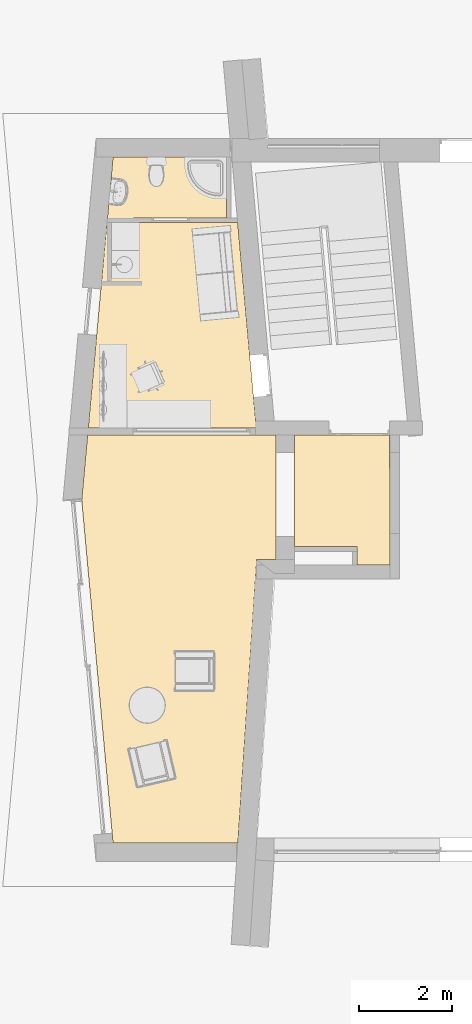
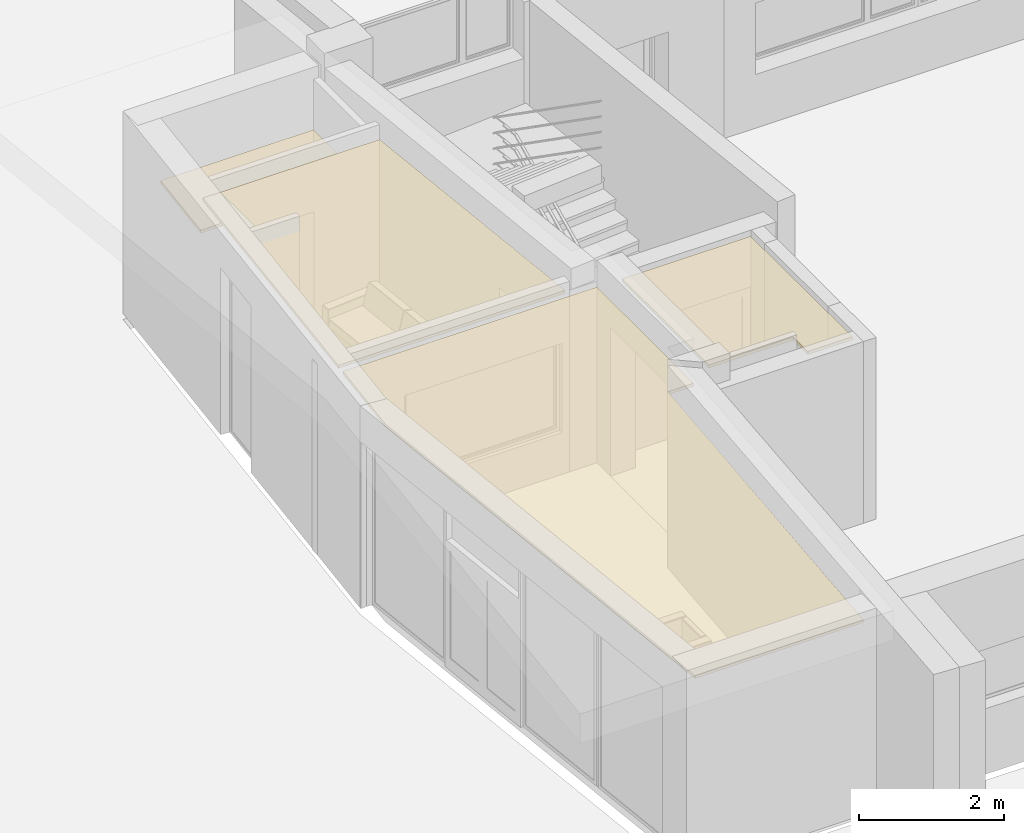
# One storey, part 29 of 36: 4 coverings.
"""IFC2X3 building model written with IfcOpenShell, lengths in millimetres."""

from ifc_helpers import new_model, entity, si_unit, converted_unit, money_unit, direction, frame, origin_with_axes, place, context, subcontext, project, spatial, faceted_brep, material, type_object, element, save


model = new_model("IFC2X3")

# Units and contexts
model_context = context("Model", 3, precision=1e-05, world=origin_with_axes(), true_north=direction((0.0, 1.0)))
body_context = subcontext(model_context, "Body", "Model", "MODEL_VIEW")
ifc_project = project(units=[si_unit("LENGTHUNIT", "METRE", prefix="MILLI"), si_unit("AREAUNIT", "SQUARE_METRE"), si_unit("VOLUMEUNIT", "CUBIC_METRE"), converted_unit("PLANEANGLEUNIT", "DEGREE", entity("IfcPlaneAngleMeasure", 0.0174532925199), si_unit("PLANEANGLEUNIT", "RADIAN"), dimensions=[0, 0, 0, 0, 0, 0, 0]), si_unit("SOLIDANGLEUNIT", "STERADIAN"), money_unit("USD"), converted_unit("TIMEUNIT", "Year", entity("IfcTimeMeasure", 31556926.0), si_unit("TIMEUNIT", "SECOND"), dimensions=[0, 0, 0, 0, 0, 0, 0]), si_unit("MASSUNIT", "GRAM"), si_unit("THERMODYNAMICTEMPERATUREUNIT", "DEGREE_CELSIUS"), si_unit("LUMINOUSINTENSITYUNIT", "LUMEN")], contexts=[model_context])

# Site, building, storey
site_placement = place(None, origin_with_axes())
site = spatial("IfcSite", under=ifc_project, at=site_placement, Name="Site", CompositionType="ELEMENT")
building_placement = place(site_placement, origin_with_axes())
building = spatial("IfcBuilding", under=site, at=building_placement, Name="Building", CompositionType="ELEMENT")
storey_placement = place(building_placement, frame((0.0, 0.0, -3400.0), z_axis=(0.0, 0.0, 1.0), x_axis=(1.0, 0.0, 0.0)))
storey = spatial("IfcBuildingStorey", under=building, at=storey_placement, Name="1KORRUS", CompositionType="ELEMENT", Elevation=-3400.0)

# Coverings
ifc_material_1 = material(Name="Alumiiniumprofiil")
covering_type_1 = type_object("IfcCoveringType", Name="Alumiiniumprofiil 50", PredefinedType="NOTDEFINED")
covering_1_placement = place(storey_placement, frame((-54855.1823813, -6337.6041088, 2350.0), z_axis=(0.0, 0.0, 1.0), x_axis=(1.0, 0.0, 0.0)))
element("IfcCovering", 1, at=covering_1_placement, inside=storey, type_object=covering_type_1, material=ifc_material_1, Name="RL2", ObjectType="alumiiniumprofiil", PredefinedType="CEILING", context=body_context, shape_type="Brep", body=[
    faceted_brep([(0.0, 0.0, -50.0), (0.0, 1300.0, -50.0), (0.0, 1300.0, 0.0), (0.0, 0.0, 0.0), (-2546.93, -13.0, -50.0), (-2427.36, 1298.0, -50.0), (-2427.36, 1298.0, 0.0), (-2546.93, -13.0, 0.0)], [[[0, 1, 2, 3]], [[0, 4, 5, 1]], [[1, 5, 6, 2]], [[3, 2, 6, 7]], [[4, 0, 3, 7]], [[5, 4, 7, 6]]]),
])
ifc_material_2 = material(Name="Betoon")
covering_type_2 = type_object("IfcCoveringType", Name="Betoon 50", PredefinedType="NOTDEFINED")
covering_2_placement = place(storey_placement, frame((-53392.226831, -13387.3375674, 2950.0), z_axis=(0.0, 0.0, 1.0), x_axis=(1.0, 0.0, 0.0)))
element("IfcCovering", 2, at=covering_2_placement, inside=storey, type_object=covering_type_2, material=ifc_material_2, Name="RL1", ObjectType="kipsplaat", PredefinedType="CEILING", context=body_context, shape_type="Brep", body=[
    faceted_brep([(0.0, 0.0, -50.0), (1338.82, 0.0, -50.0), (1338.82, 0.0, 0.0), (0.0, 0.0, 0.0), (0.0, 2389.685, -50.0), (2039.686, 2389.685, -50.0), (2050.497, -400.0, -50.0), (1338.82, -400.0, -50.0), (1338.82, -400.0, 0.0), (2050.497, -400.0, 0.0), (2039.686, 2389.685, 0.0), (0.0, 2389.685, 0.0)], [[[0, 1, 2, 3]], [[0, 4, 5, 6, 7, 1]], [[1, 7, 8, 2]], [[3, 2, 8, 9, 10, 11]], [[4, 0, 3, 11]], [[5, 4, 11, 10]], [[6, 5, 10, 9]], [[7, 6, 9, 8]]]),
])
covering_3_placement = place(storey_placement, frame((-57813.5558408, -10847.6526712, 2950.0), z_axis=(0.0, 0.0, 1.0), x_axis=(1.0, 0.0, 0.0)))
element("IfcCovering", 3, at=covering_3_placement, inside=storey, type_object=covering_type_2, material=ifc_material_2, Name="RL1", ObjectType="kipsplaat", PredefinedType="CEILING", context=body_context, shape_type="Brep", body=[
    faceted_brep([(0.0, 0.0, -50.0), (3604.147, 0.0, -50.0), (3604.147, 0.0, 0.0), (0.0, 0.0, 0.0), (398.444, 4410.049, -50.0), (3202.914, 4410.049, -50.0), (3202.914, 4410.049, 0.0), (398.444, 4410.049, 0.0)], [[[0, 1, 2, 3]], [[0, 4, 5, 1]], [[1, 5, 6, 2]], [[3, 2, 6, 7]], [[4, 0, 3, 7]], [[5, 4, 7, 6]]]),
])
covering_4_placement = place(storey_placement, frame((-54605.6435345, -19737.633653, 2950.0), z_axis=(0.0, 0.0, 1.0), x_axis=(1.0, 0.0, 0.0)))
element("IfcCovering", 4, at=covering_4_placement, inside=storey, type_object=covering_type_2, material=ifc_material_2, Name="RL1", ObjectType="kipsplaat", PredefinedType="CEILING", context=body_context, shape_type="Brep", body=[
    faceted_brep([(0.0, 0.0, -50.0), (404.169, 6077.727, -50.0), (404.169, 6077.727, 0.0), (0.0, 0.0, 0.0), (-2676.899, -1.606, -50.0), (-3348.945, 7349.015, -50.0), (-3221.626, 8741.587, -50.0), (813.417, 8741.587, -50.0), (813.417, 6077.727, -50.0), (813.417, 6077.727, 0.0), (813.417, 8741.587, 0.0), (-3221.626, 8741.587, 0.0), (-3348.945, 7349.015, 0.0), (-2676.899, -1.606, 0.0)], [[[0, 1, 2, 3]], [[0, 4, 5, 6, 7, 8, 1]], [[1, 8, 9, 2]], [[3, 2, 9, 10, 11, 12, 13]], [[4, 0, 3, 13]], [[5, 4, 13, 12]], [[6, 5, 12, 11]], [[7, 6, 11, 10]], [[8, 7, 10, 9]]]),
])

save(model, "model.ifc")
